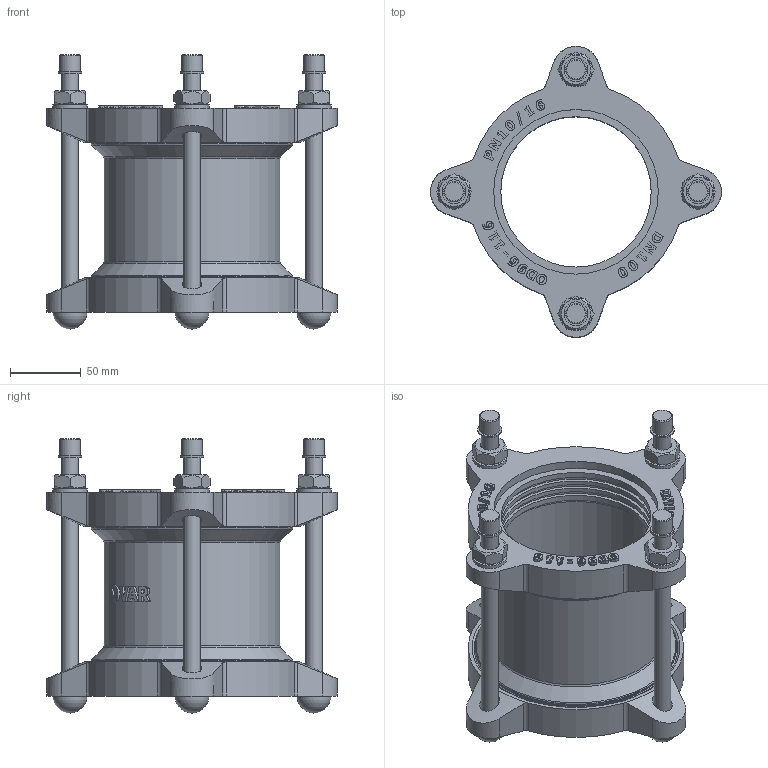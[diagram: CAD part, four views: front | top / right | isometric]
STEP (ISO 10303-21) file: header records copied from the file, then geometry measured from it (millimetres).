
FILE_DESCRIPTION(('STEP AP203'), '1');
FILE_NAME('Cîåäèíèòåëüíàÿ ìóôòà äëÿ æåñòêèõ òðóá', '', ('UNSPECIFIED'), ('UNSPECIFIED'), 'C3D Converter', 'C3D Toolkit', '');
FILE_SCHEMA(('CONFIG_CONTROL_DESIGN'));
Length unit declared in the file: millimetre
Assembly tree (21 placements, depth 2):
  (unnamed)
    (unnamed)
    (unnamed)  x4
    (unnamed)  x4
    (unnamed)  x4
    (unnamed)  x4
    (unnamed)
    (unnamed)
    (unnamed)  x2
Bounding box: 205 x 205 x 193.2 mm (x, y, z)
Volume: 828028 mm3; surface area: 305350.6 mm2
Topology: 25 solids, 25 shells, 776 faces, 1951 edges, 1282 vertices
Faces by surface type: extrusion 334, plane 277, cylinder 105, cone 34, torus 22, sphere 4
Full cylindrical faces by diameter (mm): 12 x12, 12.253 x1, 13 x4, 14 x8, 14.4 x4, 16.8 x4, 24 x4, 106 x8, 111 x6, 116 x3, 120 x2, 124 x3, 142 x2, 144 x4
Entity records: 30362 total; most frequent: CARTESIAN_POINT 10607, ORIENTED_EDGE 3370, DIRECTION 2131, EDGE_CURVE 1685, VERTEX_POINT 1152, VECTOR 1095, B_SPLINE_CURVE_WITH_KNOTS 1064, EDGE_LOOP 813
